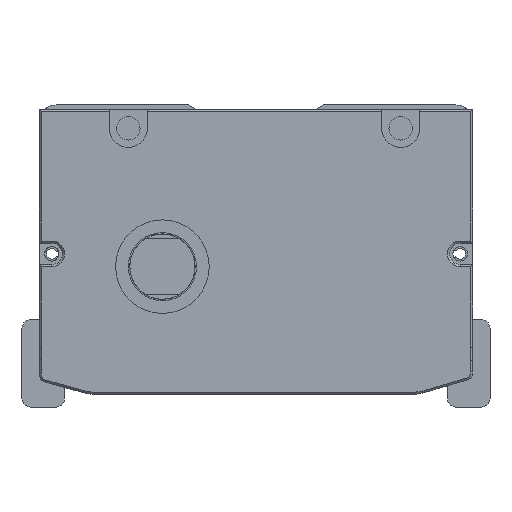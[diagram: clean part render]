
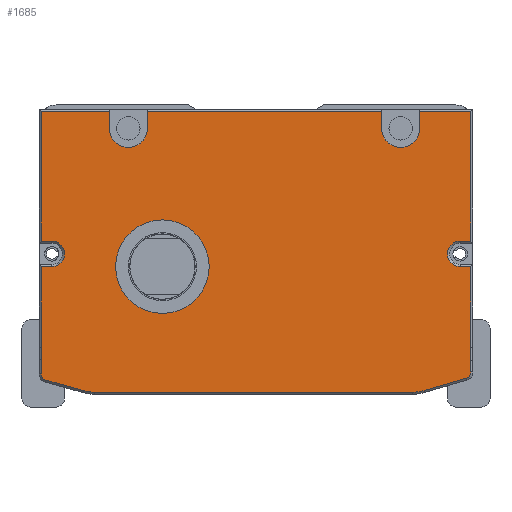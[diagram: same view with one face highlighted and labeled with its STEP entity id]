
A CAD part, front view. The second image highlights one B-rep face of the part: STEP entity #1685.
In plain terms, the highlighted planar face has unit normal (0, -1, 0).
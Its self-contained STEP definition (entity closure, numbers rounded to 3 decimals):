
#1002=FACE_BOUND('',#3547,.T.);
#1003=FACE_BOUND('',#3548,.T.);
#1685=ADVANCED_FACE('',(#1002,#1003),#2388,.F.);
#2388=PLANE('',#14470);
#3547=EDGE_LOOP('',(#6417));
#3548=EDGE_LOOP('',(#6418,#6419,#6420,#6421,#6422,#6423,#6424,#6425,#6426,
#6427,#6428,#6429,#6430,#6431,#6432,#6433,#6434,#6435,#6436,#6437,#6438,
#6439,#6440,#6441,#6442,#6443,#6444,#6445));
#4529=CIRCLE('',#14381,3.);
#4532=CIRCLE('',#14389,3.);
#4535=CIRCLE('',#14401,1.5);
#4537=CIRCLE('',#14405,9.5);
#4539=CIRCLE('',#14409,9.5);
#4541=CIRCLE('',#14413,1.5);
#4546=CIRCLE('',#14428,4.5);
#4550=CIRCLE('',#14434,4.5);
#4551=CIRCLE('',#14443,11.);
#6417=ORIENTED_EDGE('',*,*,#10904,.F.);
#6418=ORIENTED_EDGE('',*,*,#10798,.T.);
#6419=ORIENTED_EDGE('',*,*,#10694,.T.);
#6420=ORIENTED_EDGE('',*,*,#10885,.T.);
#6421=ORIENTED_EDGE('',*,*,#10698,.T.);
#6422=ORIENTED_EDGE('',*,*,#10933,.T.);
#6423=ORIENTED_EDGE('',*,*,#10704,.T.);
#6424=ORIENTED_EDGE('',*,*,#10881,.T.);
#6425=ORIENTED_EDGE('',*,*,#10708,.T.);
#6426=ORIENTED_EDGE('',*,*,#10934,.T.);
#6427=ORIENTED_EDGE('',*,*,#10802,.T.);
#6428=ORIENTED_EDGE('',*,*,#10808,.T.);
#6429=ORIENTED_EDGE('',*,*,#10811,.T.);
#6430=ORIENTED_EDGE('',*,*,#10814,.T.);
#6431=ORIENTED_EDGE('',*,*,#10816,.T.);
#6432=ORIENTED_EDGE('',*,*,#10846,.T.);
#6433=ORIENTED_EDGE('',*,*,#10850,.T.);
#6434=ORIENTED_EDGE('',*,*,#10853,.T.);
#6435=ORIENTED_EDGE('',*,*,#10856,.T.);
#6436=ORIENTED_EDGE('',*,*,#10859,.T.);
#6437=ORIENTED_EDGE('',*,*,#10862,.T.);
#6438=ORIENTED_EDGE('',*,*,#10865,.T.);
#6439=ORIENTED_EDGE('',*,*,#10867,.T.);
#6440=ORIENTED_EDGE('',*,*,#10844,.T.);
#6441=ORIENTED_EDGE('',*,*,#10834,.T.);
#6442=ORIENTED_EDGE('',*,*,#10831,.T.);
#6443=ORIENTED_EDGE('',*,*,#10828,.T.);
#6444=ORIENTED_EDGE('',*,*,#10825,.T.);
#6445=ORIENTED_EDGE('',*,*,#10820,.T.);
#9247=VERTEX_POINT('',#21263);
#9248=VERTEX_POINT('',#21265);
#9251=VERTEX_POINT('',#21272);
#9252=VERTEX_POINT('',#21274);
#9257=VERTEX_POINT('',#21285);
#9258=VERTEX_POINT('',#21287);
#9261=VERTEX_POINT('',#21294);
#9262=VERTEX_POINT('',#21296);
#9320=VERTEX_POINT('',#21482);
#9323=VERTEX_POINT('',#21490);
#9324=VERTEX_POINT('',#21491);
#9329=VERTEX_POINT('',#21502);
#9331=VERTEX_POINT('',#21508);
#9332=VERTEX_POINT('',#21513);
#9334=VERTEX_POINT('',#21519);
#9337=VERTEX_POINT('',#21527);
#9339=VERTEX_POINT('',#21533);
#9341=VERTEX_POINT('',#21539);
#9343=VERTEX_POINT('',#21545);
#9345=VERTEX_POINT('',#21551);
#9352=VERTEX_POINT('',#21575);
#9353=VERTEX_POINT('',#21579);
#9356=VERTEX_POINT('',#21586);
#9358=VERTEX_POINT('',#21592);
#9360=VERTEX_POINT('',#21598);
#9362=VERTEX_POINT('',#21604);
#9364=VERTEX_POINT('',#21610);
#9366=VERTEX_POINT('',#21616);
#9378=VERTEX_POINT('',#21689);
#10694=EDGE_CURVE('',#9248,#9247,#12343,.T.);
#10698=EDGE_CURVE('',#9252,#9251,#12347,.T.);
#10704=EDGE_CURVE('',#9258,#9257,#12353,.T.);
#10708=EDGE_CURVE('',#9262,#9261,#12357,.T.);
#10798=EDGE_CURVE('',#9320,#9248,#12430,.T.);
#10802=EDGE_CURVE('',#9323,#9324,#12434,.T.);
#10808=EDGE_CURVE('',#9324,#9329,#12440,.T.);
#10811=EDGE_CURVE('',#9329,#9331,#4529,.T.);
#10814=EDGE_CURVE('',#9331,#9332,#12444,.T.);
#10816=EDGE_CURVE('',#9332,#9334,#12446,.T.);
#10820=EDGE_CURVE('',#9337,#9320,#12450,.T.);
#10825=EDGE_CURVE('',#9339,#9337,#12455,.T.);
#10828=EDGE_CURVE('',#9341,#9339,#4532,.T.);
#10831=EDGE_CURVE('',#9343,#9341,#12459,.T.);
#10834=EDGE_CURVE('',#9345,#9343,#12462,.T.);
#10844=EDGE_CURVE('',#9352,#9345,#12470,.T.);
#10846=EDGE_CURVE('',#9334,#9353,#12472,.T.);
#10850=EDGE_CURVE('',#9353,#9356,#4535,.T.);
#10853=EDGE_CURVE('',#9356,#9358,#12477,.T.);
#10856=EDGE_CURVE('',#9358,#9360,#4537,.T.);
#10859=EDGE_CURVE('',#9360,#9362,#12481,.T.);
#10862=EDGE_CURVE('',#9362,#9364,#4539,.T.);
#10865=EDGE_CURVE('',#9364,#9366,#12485,.T.);
#10867=EDGE_CURVE('',#9366,#9352,#4541,.T.);
#10881=EDGE_CURVE('',#9257,#9262,#4546,.T.);
#10885=EDGE_CURVE('',#9247,#9252,#4550,.T.);
#10904=EDGE_CURVE('',#9378,#9378,#4551,.T.);
#10933=EDGE_CURVE('',#9251,#9258,#12536,.T.);
#10934=EDGE_CURVE('',#9261,#9323,#12537,.T.);
#12343=LINE('',#21264,#13281);
#12347=LINE('',#21273,#13285);
#12353=LINE('',#21286,#13291);
#12357=LINE('',#21295,#13295);
#12430=LINE('',#21481,#13368);
#12434=LINE('',#21489,#13372);
#12440=LINE('',#21503,#13378);
#12444=LINE('',#21515,#13382);
#12446=LINE('',#21518,#13384);
#12450=LINE('',#21526,#13388);
#12455=LINE('',#21536,#13393);
#12459=LINE('',#21548,#13397);
#12462=LINE('',#21554,#13400);
#12470=LINE('',#21574,#13408);
#12472=LINE('',#21578,#13410);
#12477=LINE('',#21593,#13415);
#12481=LINE('',#21605,#13419);
#12485=LINE('',#21617,#13423);
#12536=LINE('',#21751,#13474);
#12537=LINE('',#21752,#13475);
#13281=VECTOR('',#16573,1.);
#13285=VECTOR('',#16579,1.);
#13291=VECTOR('',#16587,1.);
#13295=VECTOR('',#16593,1.);
#13368=VECTOR('',#16760,1.);
#13372=VECTOR('',#16766,1.);
#13378=VECTOR('',#16774,1.);
#13382=VECTOR('',#16786,1.);
#13384=VECTOR('',#16790,1.);
#13388=VECTOR('',#16796,1.);
#13393=VECTOR('',#16803,1.);
#13397=VECTOR('',#16815,1.);
#13400=VECTOR('',#16820,1.);
#13408=VECTOR('',#16842,1.);
#13410=VECTOR('',#16846,1.);
#13415=VECTOR('',#16859,1.);
#13419=VECTOR('',#16871,1.);
#13423=VECTOR('',#16883,1.);
#13474=VECTOR('',#17050,1.);
#13475=VECTOR('',#17051,1.);
#14381=AXIS2_PLACEMENT_3D('',#21509,#16779,#16780);
#14389=AXIS2_PLACEMENT_3D('',#21542,#16809,#16810);
#14401=AXIS2_PLACEMENT_3D('',#21587,#16852,#16853);
#14405=AXIS2_PLACEMENT_3D('',#21599,#16864,#16865);
#14409=AXIS2_PLACEMENT_3D('',#21611,#16876,#16877);
#14413=AXIS2_PLACEMENT_3D('',#21620,#16887,#16888);
#14428=AXIS2_PLACEMENT_3D('',#21646,#16926,#16927);
#14434=AXIS2_PLACEMENT_3D('',#21654,#16938,#16939);
#14443=AXIS2_PLACEMENT_3D('',#21688,#16974,#16975);
#14470=AXIS2_PLACEMENT_3D('',#21753,#17052,#17053);
#16573=DIRECTION('',(0.,0.,-1.));
#16579=DIRECTION('',(0.,0.,1.));
#16587=DIRECTION('',(0.,0.,-1.));
#16593=DIRECTION('',(0.,0.,1.));
#16760=DIRECTION('',(-1.,0.,0.));
#16766=DIRECTION('',(0.,0.,-1.));
#16774=DIRECTION('',(1.,0.,0.));
#16779=DIRECTION('',(0.,1.,0.));
#16780=DIRECTION('',(0.,0.,1.));
#16786=DIRECTION('',(-1.,0.,0.));
#16790=DIRECTION('',(0.,0.,-1.));
#16796=DIRECTION('',(0.,0.,1.));
#16803=DIRECTION('',(1.,0.,0.));
#16809=DIRECTION('',(0.,1.,0.));
#16810=DIRECTION('',(0.,0.,1.));
#16815=DIRECTION('',(-1.,0.,0.));
#16820=DIRECTION('',(0.,0.,1.));
#16842=DIRECTION('',(0.,0.,1.));
#16846=DIRECTION('',(0.,0.,-1.));
#16852=DIRECTION('',(0.,-1.,0.));
#16853=DIRECTION('',(0.,0.,1.));
#16859=DIRECTION('',(0.963,0.,-0.269));
#16864=DIRECTION('',(0.,-1.,0.));
#16865=DIRECTION('',(0.,0.,1.));
#16871=DIRECTION('',(1.,0.,0.));
#16876=DIRECTION('',(0.,-1.,0.));
#16877=DIRECTION('',(0.,0.,1.));
#16883=DIRECTION('',(0.959,0.,0.282));
#16887=DIRECTION('',(0.,-1.,0.));
#16888=DIRECTION('',(0.,0.,1.));
#16926=DIRECTION('',(0.,1.,0.));
#16927=DIRECTION('',(0.,0.,1.));
#16938=DIRECTION('',(0.,1.,0.));
#16939=DIRECTION('',(0.,0.,1.));
#16974=DIRECTION('',(0.,-1.,0.));
#16975=DIRECTION('',(0.,0.,1.));
#17050=DIRECTION('',(-1.,0.,0.));
#17051=DIRECTION('',(-1.,0.,0.));
#17052=DIRECTION('',(0.,1.,0.));
#17053=DIRECTION('',(1.,0.,0.));
#21263=CARTESIAN_POINT('',(35.308,-157.5,-5.5));
#21264=CARTESIAN_POINT('',(35.308,-157.5,-1.));
#21265=CARTESIAN_POINT('',(35.308,-157.5,-1.5));
#21272=CARTESIAN_POINT('',(26.308,-157.5,-1.5));
#21273=CARTESIAN_POINT('',(26.308,-157.5,-1.));
#21274=CARTESIAN_POINT('',(26.308,-157.5,-5.5));
#21285=CARTESIAN_POINT('',(-28.692,-157.5,-5.5));
#21286=CARTESIAN_POINT('',(-28.692,-157.5,-1.));
#21287=CARTESIAN_POINT('',(-28.692,-157.5,-1.5));
#21294=CARTESIAN_POINT('',(-37.692,-157.5,-1.5));
#21295=CARTESIAN_POINT('',(-37.692,-157.5,-1.));
#21296=CARTESIAN_POINT('',(-37.692,-157.5,-5.5));
#21481=CARTESIAN_POINT('',(-53.692,-157.5,-1.5));
#21482=CARTESIAN_POINT('',(47.308,-157.5,-1.5));
#21489=CARTESIAN_POINT('',(-53.692,-157.5,-32.5));
#21490=CARTESIAN_POINT('',(-53.692,-157.5,-1.5));
#21491=CARTESIAN_POINT('',(-53.692,-157.5,-32.));
#21502=CARTESIAN_POINT('',(-51.192,-157.5,-32.));
#21503=CARTESIAN_POINT('',(-3.192,-157.5,-32.));
#21508=CARTESIAN_POINT('',(-51.192,-157.5,-38.));
#21509=CARTESIAN_POINT('',(-51.192,-157.5,-35.));
#21513=CARTESIAN_POINT('',(-53.692,-157.5,-38.));
#21515=CARTESIAN_POINT('',(-3.192,-157.5,-38.));
#21518=CARTESIAN_POINT('',(-53.692,-157.5,-57.));
#21519=CARTESIAN_POINT('',(-53.692,-157.5,-57.));
#21526=CARTESIAN_POINT('',(47.308,-157.5,-1.5));
#21527=CARTESIAN_POINT('',(47.308,-157.5,-32.));
#21533=CARTESIAN_POINT('',(44.808,-157.5,-32.));
#21536=CARTESIAN_POINT('',(-3.192,-157.5,-32.));
#21539=CARTESIAN_POINT('',(44.808,-157.5,-38.));
#21542=CARTESIAN_POINT('',(44.808,-157.5,-35.));
#21545=CARTESIAN_POINT('',(47.308,-157.5,-38.));
#21548=CARTESIAN_POINT('',(-3.192,-157.5,-38.));
#21551=CARTESIAN_POINT('',(47.308,-157.5,-57.));
#21554=CARTESIAN_POINT('',(47.308,-157.5,-37.5));
#21574=CARTESIAN_POINT('',(47.308,-157.5,-37.5));
#21575=CARTESIAN_POINT('',(47.308,-157.5,-62.758));
#21578=CARTESIAN_POINT('',(-53.692,-157.5,-59.712));
#21579=CARTESIAN_POINT('',(-53.692,-157.5,-63.212));
#21586=CARTESIAN_POINT('',(-52.596,-157.5,-64.657));
#21587=CARTESIAN_POINT('',(-52.192,-157.5,-63.212));
#21592=CARTESIAN_POINT('',(-43.674,-157.5,-67.15));
#21593=CARTESIAN_POINT('',(-43.674,-157.5,-67.15));
#21598=CARTESIAN_POINT('',(-41.118,-157.5,-67.5));
#21599=CARTESIAN_POINT('',(-41.118,-157.5,-58.));
#21604=CARTESIAN_POINT('',(33.631,-157.5,-67.5));
#21605=CARTESIAN_POINT('',(33.631,-157.5,-67.5));
#21610=CARTESIAN_POINT('',(36.312,-157.5,-67.114));
#21611=CARTESIAN_POINT('',(33.631,-157.5,-58.));
#21616=CARTESIAN_POINT('',(46.231,-157.5,-64.197));
#21617=CARTESIAN_POINT('',(46.231,-157.5,-64.197));
#21620=CARTESIAN_POINT('',(45.808,-157.5,-62.758));
#21646=CARTESIAN_POINT('',(-33.192,-157.5,-5.5));
#21654=CARTESIAN_POINT('',(30.808,-157.5,-5.5));
#21688=CARTESIAN_POINT('',(-25.192,-157.5,-38.));
#21689=CARTESIAN_POINT('',(-25.192,-157.5,-27.));
#21751=CARTESIAN_POINT('',(-53.692,-157.5,-1.5));
#21752=CARTESIAN_POINT('',(-53.692,-157.5,-1.5));
#21753=CARTESIAN_POINT('',(-3.192,-157.5,-1.));
